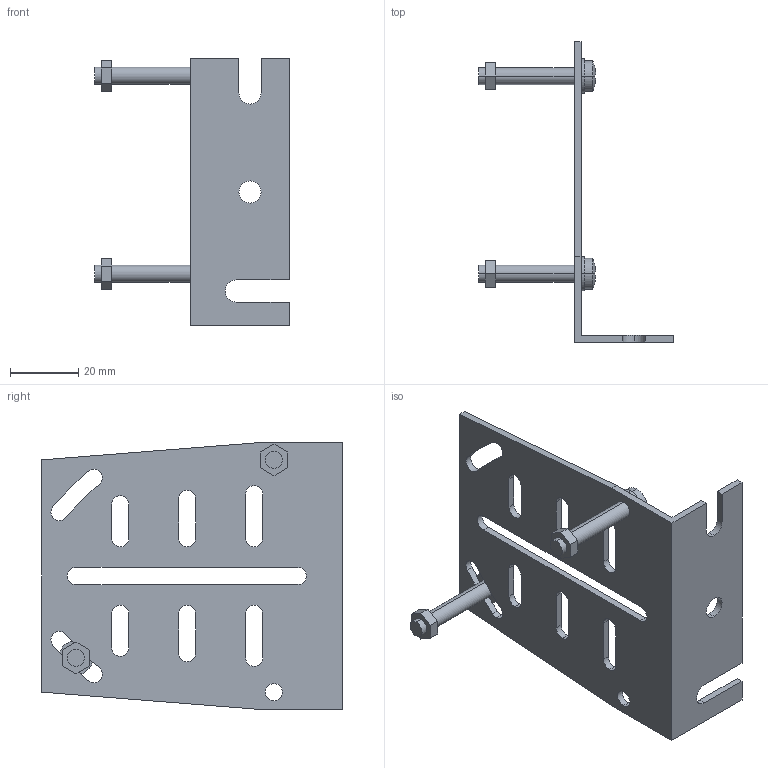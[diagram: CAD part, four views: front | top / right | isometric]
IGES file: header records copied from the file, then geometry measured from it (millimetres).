
Start section: SolidWorks IGES FILE using analytic representation for surfaces
Global section: file name: \\intra-srv04\開発データ\CAD_Data\CAD委員会\3D電子ｶﾀﾛｸﾞ\製品カタログ（新）\0_IGES\MS-EQ5-01.IGS,41HSolidWorks 2004; native system: by SolidWorks Corporation; preprocessor: Version 5.3; author: mf1158; date: 050905.143142; units: millimetre
Bounding box: 57 x 88 x 78 mm (x, y, z)
Volume: 16652.8 mm3; surface area: 18650.8 mm2
Topology: 5 solids, 5 shells, 137 faces, 365 edges, 242 vertices
Faces by surface type: plane 78, revolution 59
